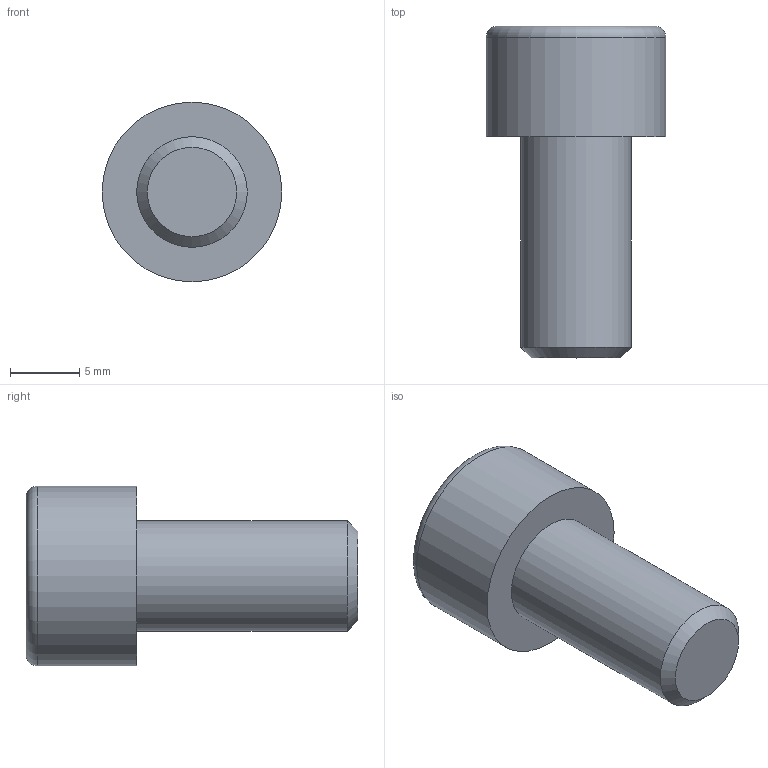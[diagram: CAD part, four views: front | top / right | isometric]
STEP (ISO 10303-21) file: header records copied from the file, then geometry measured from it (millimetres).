
FILE_DESCRIPTION(/* description */ (''),/* implementation_level */ '2;1');
FILE_NAME(/* name */ 'C:\Users\D\Documents\Inventor\各種小物\JIS\JIS B 1176 六角穴付きボルト\M8x16.stp',/* time_stamp */ '2022-05-09T18:52:35+09:00',/* author */ ('D'),/* organization */ (''),/* preprocessor_version */ 'ST-DEVELOPER v18',/* originating_system */ 'Autodesk Inventor 2020',/* authorisation */ '');
FILE_SCHEMA (('AUTOMOTIVE_DESIGN { 1 0 10303 214 3 1 1 }'));
Length unit declared in the file: millimetre
Products named in the file (1): M1.6x2.5
Bounding box: 13 x 24 x 13 mm (x, y, z)
Volume: 1704.5 mm3; surface area: 1059.5 mm2
Topology: 1 solids, 1 shells, 14 faces, 33 edges, 22 vertices
Faces by surface type: plane 9, cone 2, cylinder 2, torus 1
Full cylindrical faces by diameter (mm): 8 x1, 13 x1
Entity records: 435 total; most frequent: CARTESIAN_POINT 83, ORIENTED_EDGE 64, DIRECTION 64, EDGE_CURVE 32, AXIS2_PLACEMENT_3D 24, VERTEX_POINT 22, EDGE_LOOP 16, LINE 16
